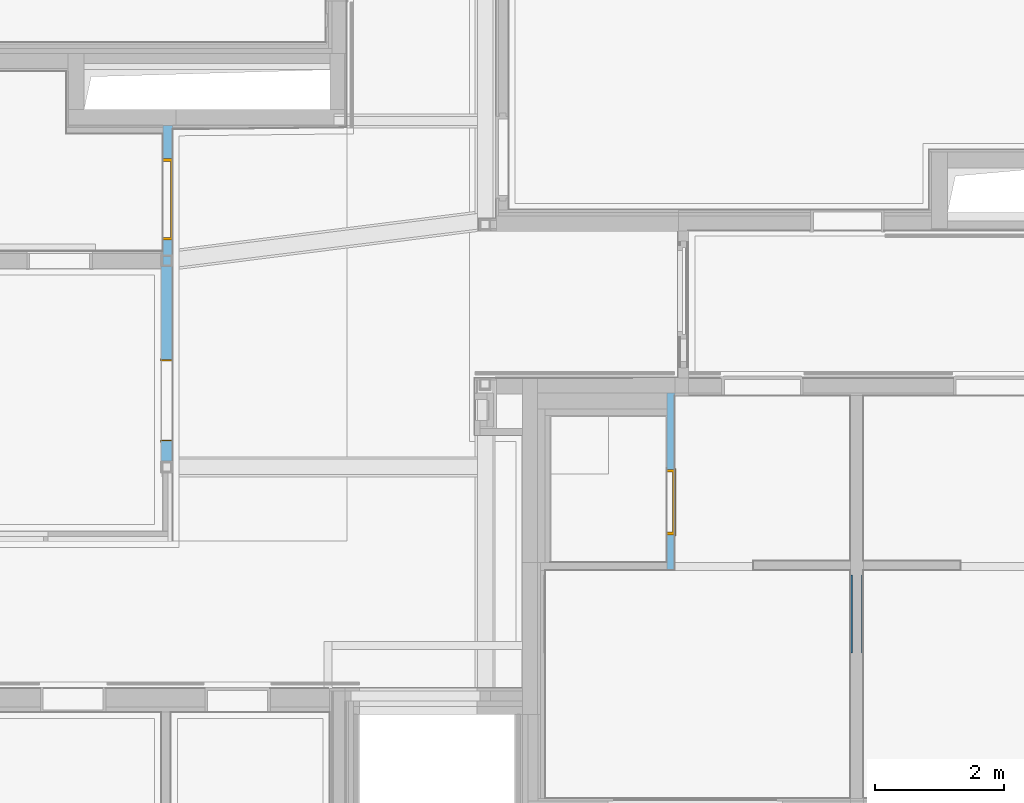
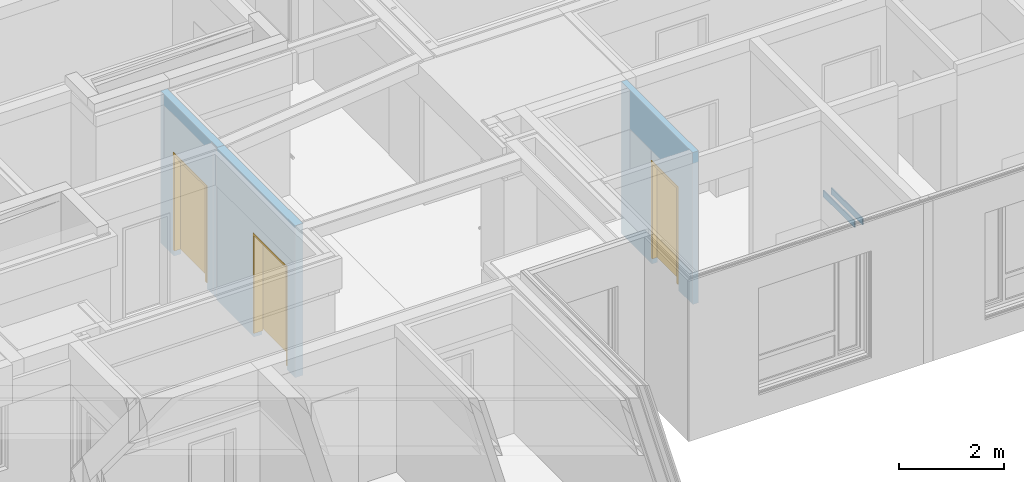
# One storey, part 113 of 222: 3 doors, 2 walls, 3 openings, plus 3 elements that do not belong to this part.
"""IFC4 building model written with IfcOpenShell, lengths in metres."""

from ifc_helpers import new_model, entity, si_unit, converted_unit, derived_unit, frame, frame_2d, origin, origin_with_axes, place, context, subcontext, project, spatial, polyline, rectangle, outline, extrude, clip, bounded_halfspace, faceted_brep, source, transform, mapped, material, type_object, element, fill, save


model = new_model("IFC4")

# Units and contexts
model_context = context("Model", 3, precision=1e-05, world=origin())
body_context = subcontext(model_context, "Body", "Model", "MODEL_VIEW")
ifc_project = project(units=[si_unit("LENGTHUNIT", "METRE"), si_unit("AREAUNIT", "SQUARE_METRE"), si_unit("VOLUMEUNIT", "CUBIC_METRE"), si_unit("MASSUNIT", "GRAM", prefix="KILO"), converted_unit("PLANEANGLEUNIT", "DEGREE", entity("IfcPlaneAngleMeasure", 0.0174532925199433), si_unit("PLANEANGLEUNIT", "RADIAN"), dimensions=[0, 0, 0, 0, 0, 0, 0]), derived_unit("THERMALTRANSMITTANCEUNIT", [(si_unit("POWERUNIT", "WATT"), 1), (si_unit("THERMODYNAMICTEMPERATUREUNIT", "KELVIN"), -1), (si_unit("LENGTHUNIT", "METRE"), -2)]), derived_unit("VOLUMETRICFLOWRATEUNIT", [(si_unit("LENGTHUNIT", "METRE"), 3), (converted_unit("TIMEUNIT", "hour", entity("IfcTimeMeasure", 3600.0), si_unit("TIMEUNIT", "SECOND"), dimensions=[0, 0, 1, 0, 0, 0, 0]), -1), (si_unit("LENGTHUNIT", "METRE"), -1)])], contexts=[model_context])

# Site, building, storey
site_placement = place(None, origin())
site = spatial("IfcSite", under=ifc_project, at=site_placement, Name="Psychiatrie Neubau Wunstorf", CompositionType="ELEMENT")
building_placement = place(site_placement, origin())
building = spatial("IfcBuilding", under=site, at=building_placement, Name="Neubau H2 Stationsgebäude", CompositionType="ELEMENT")
storey_placement = place(building_placement, frame((0.0, 0.0, 3.6)))
storey = spatial("IfcBuildingStorey", under=building, at=storey_placement, Name="H2 Ebene +1", CompositionType="ELEMENT", Elevation=3.6)

# Wall, opening, door
ifc_material_1 = material(Name="WI-LB")
wall_1_placement = place(storey_placement, frame((73.1875, 2.36050000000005, 0.0), z_axis=(0.0, 0.0, 1.0), x_axis=(0.0, 1.0, 0.0)))
wall_1 = element("IfcWall", 1, at=wall_1_placement, inside=storey, material=ifc_material_1, context=body_context, shape_type="SweptSolid", body=[
    extrude(rectangle(XDim=2.73999999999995, YDim=0.125, at=frame_2d((1.36999999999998, 0.0625), x_axis=(1.0, 0.0))), origin_with_axes(), (0.0, 0.0, 1.0), 3.55),
])
opening_1_placement = place(wall_1_placement, frame((1.55999999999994, 0.125, 0.0), z_axis=(0.0, -1.0, 0.0), x_axis=(0.0, 0.0, 1.0)))
opening_1 = element("IfcOpeningElement", 2, at=opening_1_placement, cuts=wall_1, Name="Türöffnung", ObjectType="Opening", context=body_context, shape_type="SweptSolid", body=[
    extrude(outline(polyline([(2.41, 1.01), (2.41, 0.0), (0.0, 0.0), (0.0, 1.01), (2.41, 1.01)])), origin_with_axes(), (0.0, 0.0, 1.0), 0.125),
])
ifc_material_2 = material(Name="TI-1F-UZ-D-N")
door_type_1 = type_object("IfcDoorType", Name="SMT", OperationType="SINGLE_SWING_RIGHT", ParameterTakesPrecedence=False, PredefinedType="DOOR")
shared_shape_1 = source(origin_with_axes(), body_context, "Body", "Brep", [
    faceted_brep([(-0.0399999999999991, 0.0124999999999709, 0.0), (0.0, 0.0124999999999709, 0.0), (0.0, 0.112499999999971, 0.0), (-0.0399999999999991, 0.112499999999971, 0.0), (-0.0399999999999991, 0.112499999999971, 3.55), (0.0, 0.112499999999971, 3.55), (0.0, 0.0124999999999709, 3.55), (-0.0399999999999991, 0.0124999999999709, 3.55)], [[[0, 1, 2, 3]], [[4, 5, 6, 7]], [[3, 4, 7, 0]], [[2, 5, 4, 3]], [[1, 6, 5, 2]], [[0, 7, 6, 1]]], orient=[[False], [False], [False], [False], [False], [False]]),
    faceted_brep([(1.01, 0.0124999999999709, 0.0), (1.05, 0.0124999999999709, 0.0), (1.05, 0.112499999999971, 0.0), (1.01, 0.112499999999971, 0.0), (1.01, 0.112499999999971, 3.55), (1.05, 0.112499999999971, 3.55), (1.05, 0.0124999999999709, 3.55), (1.01, 0.0124999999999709, 3.55)], [[[0, 1, 2, 3]], [[4, 5, 6, 7]], [[3, 4, 7, 0]], [[2, 5, 4, 3]], [[1, 6, 5, 2]], [[0, 7, 6, 1]]], orient=[[False], [False], [False], [False], [False], [False]]),
    faceted_brep([(0.0, 0.0124999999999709, 2.41), (1.01, 0.0124999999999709, 2.41), (1.01, 0.112499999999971, 2.41), (0.0, 0.112499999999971, 2.41), (0.0, 0.112499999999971, 2.45), (1.01, 0.112499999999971, 2.45), (1.01, 0.0124999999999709, 2.45), (0.0, 0.0124999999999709, 2.45)], [[[0, 1, 2, 3]], [[4, 5, 6, 7]], [[3, 4, 7, 0]], [[2, 5, 4, 3]], [[1, 6, 5, 2]], [[0, 7, 6, 1]]], orient=[[False], [False], [False], [False], [False], [False]]),
])
shared_shape_2 = source(origin_with_axes(), body_context, "Body", "Brep", [
    faceted_brep([(0.0, -0.0150000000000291, 2.41), (0.0400000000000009, -0.0150000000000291, 2.41), (0.0400000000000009, -0.0150000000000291, 0.15), (0.0, -0.0150000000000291, 0.15), (0.0, 0.139999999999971, 0.15), (0.0400000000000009, 0.139999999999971, 0.15), (0.0400000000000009, 0.139999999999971, 2.41), (0.0, 0.139999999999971, 2.41)], [[[0, 1, 2, 3]], [[4, 5, 6, 7]], [[3, 4, 7, 0]], [[2, 5, 4, 3]], [[1, 6, 5, 2]], [[0, 7, 6, 1]]], orient=[[False], [False], [False], [False], [False], [False]]),
    faceted_brep([(0.0, -0.0150000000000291, 2.425), (0.0, -0.0150000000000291, 0.15), (-0.0149999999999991, -0.0150000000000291, 0.15), (-0.0149999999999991, -0.0150000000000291, 2.425), (0.0, 0.0, 0.15), (0.0, 0.0, 2.425), (-0.0149999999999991, 0.0, 2.425), (-0.0149999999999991, 0.0, 0.15)], [[[0, 1, 2, 3]], [[4, 5, 6, 7]], [[1, 0, 5, 4]], [[2, 1, 4, 7]], [[3, 2, 7, 6]], [[0, 3, 6, 5]]], orient=[[False], [False], [False], [False], [False], [False]]),
    faceted_brep([(0.0, 0.124999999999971, 2.425), (0.0, 0.124999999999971, 0.15), (-0.0149999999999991, 0.124999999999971, 0.15), (-0.0149999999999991, 0.124999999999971, 2.425), (0.0, 0.139999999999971, 0.15), (0.0, 0.139999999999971, 2.425), (-0.0149999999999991, 0.139999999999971, 2.425), (-0.0149999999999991, 0.139999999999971, 0.15)], [[[0, 1, 2, 3]], [[4, 5, 6, 7]], [[1, 0, 5, 4]], [[2, 1, 4, 7]], [[3, 2, 7, 6]], [[0, 3, 6, 5]]], orient=[[False], [False], [False], [False], [False], [False]]),
    faceted_brep([(0.970000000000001, -0.0150000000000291, 2.41), (1.01, -0.0150000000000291, 2.41), (1.01, -0.0150000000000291, 0.15), (0.970000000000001, -0.0150000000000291, 0.15), (0.970000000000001, 0.139999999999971, 0.15), (1.01, 0.139999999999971, 0.15), (1.01, 0.139999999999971, 2.41), (0.970000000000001, 0.139999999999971, 2.41)], [[[0, 1, 2, 3]], [[4, 5, 6, 7]], [[3, 4, 7, 0]], [[2, 5, 4, 3]], [[1, 6, 5, 2]], [[0, 7, 6, 1]]], orient=[[False], [False], [False], [False], [False], [False]]),
    faceted_brep([(1.01, -0.0150000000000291, 2.425), (1.025, -0.0150000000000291, 2.425), (1.025, -0.0150000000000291, 0.15), (1.01, -0.0150000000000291, 0.15), (1.01, 0.0, 0.15), (1.025, 0.0, 0.15), (1.025, 0.0, 2.425), (1.01, 0.0, 2.425)], [[[0, 1, 2, 3]], [[4, 5, 6, 7]], [[3, 4, 7, 0]], [[2, 5, 4, 3]], [[1, 6, 5, 2]], [[0, 7, 6, 1]]], orient=[[False], [False], [False], [False], [False], [False]]),
    faceted_brep([(1.01, 0.124999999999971, 2.425), (1.025, 0.124999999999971, 2.425), (1.025, 0.124999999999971, 0.15), (1.01, 0.124999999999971, 0.15), (1.01, 0.139999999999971, 0.15), (1.025, 0.139999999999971, 0.15), (1.025, 0.139999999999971, 2.425), (1.01, 0.139999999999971, 2.425)], [[[0, 1, 2, 3]], [[4, 5, 6, 7]], [[3, 4, 7, 0]], [[2, 5, 4, 3]], [[1, 6, 5, 2]], [[0, 7, 6, 1]]], orient=[[False], [False], [False], [False], [False], [False]]),
    faceted_brep([(0.0400000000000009, -0.0150000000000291, 2.41), (0.970000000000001, -0.0150000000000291, 2.41), (0.970000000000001, -0.0150000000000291, 2.37), (0.0400000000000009, -0.0150000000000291, 2.37), (0.0400000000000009, 0.139999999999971, 2.37), (0.970000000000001, 0.139999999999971, 2.37), (0.970000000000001, 0.139999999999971, 2.41), (0.0400000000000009, 0.139999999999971, 2.41)], [[[0, 1, 2, 3]], [[4, 5, 6, 7]], [[3, 4, 7, 0]], [[2, 5, 4, 3]], [[1, 6, 5, 2]], [[0, 7, 6, 1]]], orient=[[False], [False], [False], [False], [False], [False]]),
    faceted_brep([(0.0, -0.0150000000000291, 2.425), (1.01, -0.0150000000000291, 2.425), (1.01, -0.0150000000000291, 2.41), (0.0, -0.0150000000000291, 2.41), (0.0, 0.0, 2.41), (1.01, 0.0, 2.41), (1.01, 0.0, 2.425), (0.0, 0.0, 2.425)], [[[0, 1, 2, 3]], [[4, 5, 6, 7]], [[3, 4, 7, 0]], [[2, 5, 4, 3]], [[1, 6, 5, 2]], [[0, 7, 6, 1]]], orient=[[False], [False], [False], [False], [False], [False]]),
    faceted_brep([(0.0, 0.124999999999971, 2.425), (1.01, 0.124999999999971, 2.425), (1.01, 0.124999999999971, 2.41), (0.0, 0.124999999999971, 2.41), (0.0, 0.139999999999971, 2.41), (1.01, 0.139999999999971, 2.41), (1.01, 0.139999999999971, 2.425), (0.0, 0.139999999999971, 2.425)], [[[0, 1, 2, 3]], [[4, 5, 6, 7]], [[3, 4, 7, 0]], [[2, 5, 4, 3]], [[1, 6, 5, 2]], [[0, 7, 6, 1]]], orient=[[False], [False], [False], [False], [False], [False]]),
    faceted_brep([(0.0250000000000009, 0.0909999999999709, 2.385), (0.985000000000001, 0.0909999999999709, 2.385), (0.985000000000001, 0.0909999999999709, 0.15), (0.0250000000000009, 0.0909999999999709, 0.15), (0.0250000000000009, 0.140999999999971, 0.15), (0.985000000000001, 0.140999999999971, 0.15), (0.985000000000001, 0.140999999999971, 2.385), (0.0250000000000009, 0.140999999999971, 2.385)], [[[0, 1, 2, 3]], [[4, 5, 6, 7]], [[3, 4, 7, 0]], [[2, 5, 4, 3]], [[1, 6, 5, 2]], [[0, 7, 6, 1]]], orient=[[False], [False], [False], [False], [False], [False]]),
])
door_1_placement = place(opening_1_placement, frame((0.0, 0.0, 0.0), z_axis=(1.0, 0.0, 0.0), x_axis=(0.0, 1.0, 0.0)))
door_1 = element("IfcDoor", 3, at=door_1_placement, inside=storey, type_object=door_type_1, material=ifc_material_2, Name="SMT", OverallHeight=2.41, OverallWidth=1.01, context=body_context, shape_type="MappedRepresentation", body=[
    mapped(shared_shape_1, transform((0.0, 0.0, 0.0), x_axis=(1.0, 0.0, 0.0), y_axis=(0.0, 1.0, 0.0), z_axis=(0.0, 0.0, 1.0), scale=1.0)),
    mapped(shared_shape_2, transform((0.0, 0.0, 0.0), x_axis=(1.0, 0.0, 0.0), y_axis=(0.0, 1.0, 0.0), z_axis=(0.0, 0.0, 1.0), scale=1.0)),
])
fill(opening_1, door_1)

# Walls
for number, where, name in (
    (4, (75.9, 1.08720005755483, 1.575), "WV 1.1"),
    (5, (76.075, 1.08720000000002, 1.575), "WV 1.1"),
):
    element("IfcWall", number, at=place(storey_placement, frame(where)), inside=storey, Name=name, context=body_context, shape_type="Brep", body=[
        faceted_brep([(0.025, 1.2, 0.0), (0.0, 1.2, 0.0), (0.0, 0.0, 0.0), (0.025, 0.0, 0.0), (0.0, 1.2, 0.15), (0.025, 1.2, 0.15), (0.025, 0.0, 0.15), (0.0, 0.0, 0.15)], [[[0, 1, 2, 3]], [[4, 5, 6, 7]], [[1, 0, 5, 4]], [[2, 1, 4, 7]], [[3, 2, 7, 6]], [[0, 3, 6, 5]]], orient=[[False], [False], [False], [False], [False], [False]]),
    ])

# Wall, opening, door
ifc_material_3 = material(Name="WI-LB")
wall_2_placement = place(storey_placement, frame((65.4249963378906, 4.0499969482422, 0.0), z_axis=(0.0, 0.0, 1.0), x_axis=(0.0, 1.0, 0.0)))
wall_2 = element("IfcWall", 6, at=wall_2_placement, inside=storey, material=ifc_material_3, context=body_context, shape_type="SweptSolid", body=[
    extrude(rectangle(XDim=3.0065026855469, YDim=0.175, at=frame_2d((1.50325134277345, 0.0875), x_axis=(1.0, 0.0))), origin_with_axes(), (0.0, 0.0, 1.0), 3.55),
])
opening_2_placement = place(wall_2_placement, frame((0.307502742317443, 0.0, 0.0), z_axis=(0.0, 1.0, 0.0), x_axis=(0.0, 0.0, 1.0)))
opening_2 = element("IfcOpeningElement", 7, at=opening_2_placement, cuts=wall_2, Name="Türöffnung", ObjectType="Opening", context=body_context, shape_type="SweptSolid", body=[
    extrude(outline(polyline([(2.41, 1.26), (2.41, 0.0), (0.0, 0.0), (0.0, 1.26), (2.41, 1.26)])), origin_with_axes(), (0.0, 0.0, 1.0), 0.175),
])
ifc_material_4 = material(Name="TI-1F-UZ-ZK")
door_type_2 = type_object("IfcDoorType", Name="SMT", OperationType="SLIDING_TO_LEFT", ParameterTakesPrecedence=False, PredefinedType="DOOR")
shared_shape_3 = source(origin_with_axes(), body_context, "Body", "Brep", [
    faceted_brep([(-0.0500000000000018, -0.149999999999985, 2.41), (2.72, -0.149999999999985, 2.41), (2.72, 0.0, 2.41), (-0.0500000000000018, 0.0, 2.41), (-0.0500000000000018, 0.0, 2.66), (2.72, 0.0, 2.66), (2.72, -0.149999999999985, 2.66), (-0.0500000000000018, -0.149999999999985, 2.66)], [[[0, 1, 2, 3]], [[4, 5, 6, 7]], [[3, 4, 7, 0]], [[2, 5, 4, 3]], [[1, 6, 5, 2]], [[0, 7, 6, 1]]], orient=[[False], [False], [False], [False], [False], [False]]),
])
shared_shape_4 = source(origin_with_axes(), body_context, "Body", "Brep", [
    faceted_brep([(1.3375, 0.0375000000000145, 0.0), (1.3375, 0.137500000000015, 0.0), (1.2875, 0.137500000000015, 0.0), (1.2875, 0.0375000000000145, 0.0), (1.3375, 0.137500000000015, 3.55), (1.3375, 0.0375000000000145, 3.55), (1.2875, 0.0375000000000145, 3.55), (1.2875, 0.137500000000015, 3.55)], [[[0, 1, 2, 3]], [[4, 5, 6, 7]], [[1, 0, 5, 4]], [[2, 1, 4, 7]], [[3, 2, 7, 6]], [[0, 3, 6, 5]]], orient=[[False], [False], [False], [False], [False], [False]]),
    faceted_brep([(2.6675, 0.0375000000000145, 0.0), (2.6675, 0.137500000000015, 0.0), (2.6175, 0.137500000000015, 0.0), (2.6175, 0.0375000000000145, 0.0), (2.6675, 0.137500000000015, 3.55), (2.6675, 0.0375000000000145, 3.55), (2.6175, 0.0375000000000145, 3.55), (2.6175, 0.137500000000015, 3.55)], [[[0, 1, 2, 3]], [[4, 5, 6, 7]], [[1, 0, 5, 4]], [[2, 1, 4, 7]], [[3, 2, 7, 6]], [[0, 3, 6, 5]]], orient=[[False], [False], [False], [False], [False], [False]]),
    faceted_brep([(-0.0275000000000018, 0.0375000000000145, 0.0), (-0.0275000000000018, 0.137500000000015, 0.0), (-0.0775000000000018, 0.137500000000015, 0.0), (-0.0775000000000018, 0.0375000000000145, 0.0), (-0.0275000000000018, 0.137500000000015, 3.55), (-0.0275000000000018, 0.0375000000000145, 3.55), (-0.0775000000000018, 0.0375000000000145, 3.55), (-0.0775000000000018, 0.137500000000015, 3.55)], [[[0, 1, 2, 3]], [[4, 5, 6, 7]], [[1, 0, 5, 4]], [[2, 1, 4, 7]], [[3, 2, 7, 6]], [[0, 3, 6, 5]]], orient=[[False], [False], [False], [False], [False], [False]]),
    faceted_brep([(2.6175, 0.0375000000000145, 2.4375), (2.6175, 0.137500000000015, 2.4375), (-0.0275000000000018, 0.137500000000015, 2.4375), (-0.0275000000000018, 0.0375000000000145, 2.4375), (2.6175, 0.137500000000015, 2.4875), (2.6175, 0.0375000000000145, 2.4875), (-0.0275000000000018, 0.0375000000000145, 2.4875), (-0.0275000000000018, 0.137500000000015, 2.4875)], [[[0, 1, 2, 3]], [[4, 5, 6, 7]], [[1, 0, 5, 4]], [[2, 1, 4, 7]], [[3, 2, 7, 6]], [[0, 3, 6, 5]]], orient=[[False], [False], [False], [False], [False], [False]]),
])
shared_shape_5 = source(origin_with_axes(), body_context, "Body", "Brep", [
    faceted_brep([(0.0, -0.00999999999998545, 2.41), (0.0199999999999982, -0.00999999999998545, 2.41), (0.0199999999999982, -0.00999999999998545, 0.1), (0.0, -0.00999999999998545, 0.1), (0.0, 0.185000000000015, 0.1), (0.0199999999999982, 0.185000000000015, 0.1), (0.0199999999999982, 0.185000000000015, 2.41), (0.0, 0.185000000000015, 2.41)], [[[0, 1, 2, 3]], [[4, 5, 6, 7]], [[3, 4, 7, 0]], [[2, 5, 4, 3]], [[1, 6, 5, 2]], [[0, 7, 6, 1]]], orient=[[False], [False], [False], [False], [False], [False]]),
    faceted_brep([(0.0, -0.00999999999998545, 2.43), (0.0, -0.00999999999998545, 0.1), (-0.0200000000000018, -0.00999999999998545, 0.1), (-0.0200000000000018, -0.00999999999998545, 2.43), (0.0, 0.0, 0.1), (0.0, 0.0, 2.43), (-0.0200000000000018, 0.0, 2.43), (-0.0200000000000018, 0.0, 0.1)], [[[0, 1, 2, 3]], [[4, 5, 6, 7]], [[1, 0, 5, 4]], [[2, 1, 4, 7]], [[3, 2, 7, 6]], [[0, 3, 6, 5]]], orient=[[False], [False], [False], [False], [False], [False]]),
    faceted_brep([(0.0, 0.175000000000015, 2.43), (0.0, 0.175000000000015, 0.1), (-0.0200000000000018, 0.175000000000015, 0.1), (-0.0200000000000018, 0.175000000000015, 2.43), (0.0, 0.185000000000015, 0.1), (0.0, 0.185000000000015, 2.43), (-0.0200000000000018, 0.185000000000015, 2.43), (-0.0200000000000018, 0.185000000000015, 0.1)], [[[0, 1, 2, 3]], [[4, 5, 6, 7]], [[1, 0, 5, 4]], [[2, 1, 4, 7]], [[3, 2, 7, 6]], [[0, 3, 6, 5]]], orient=[[False], [False], [False], [False], [False], [False]]),
    faceted_brep([(1.24, -0.00999999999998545, 2.41), (1.26, -0.00999999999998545, 2.41), (1.26, -0.00999999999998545, 0.1), (1.24, -0.00999999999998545, 0.1), (1.24, 0.185000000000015, 0.1), (1.26, 0.185000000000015, 0.1), (1.26, 0.185000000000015, 2.41), (1.24, 0.185000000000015, 2.41)], [[[0, 1, 2, 3]], [[4, 5, 6, 7]], [[3, 4, 7, 0]], [[2, 5, 4, 3]], [[1, 6, 5, 2]], [[0, 7, 6, 1]]], orient=[[False], [False], [False], [False], [False], [False]]),
    faceted_brep([(1.26, -0.00999999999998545, 2.43), (1.28, -0.00999999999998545, 2.43), (1.28, -0.00999999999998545, 0.1), (1.26, -0.00999999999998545, 0.1), (1.26, 0.0, 0.1), (1.28, 0.0, 0.1), (1.28, 0.0, 2.43), (1.26, 0.0, 2.43)], [[[0, 1, 2, 3]], [[4, 5, 6, 7]], [[3, 4, 7, 0]], [[2, 5, 4, 3]], [[1, 6, 5, 2]], [[0, 7, 6, 1]]], orient=[[False], [False], [False], [False], [False], [False]]),
    faceted_brep([(1.26, 0.175000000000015, 2.43), (1.28, 0.175000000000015, 2.43), (1.28, 0.175000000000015, 0.1), (1.26, 0.175000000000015, 0.1), (1.26, 0.185000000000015, 0.1), (1.28, 0.185000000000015, 0.1), (1.28, 0.185000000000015, 2.43), (1.26, 0.185000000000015, 2.43)], [[[0, 1, 2, 3]], [[4, 5, 6, 7]], [[3, 4, 7, 0]], [[2, 5, 4, 3]], [[1, 6, 5, 2]], [[0, 7, 6, 1]]], orient=[[False], [False], [False], [False], [False], [False]]),
    faceted_brep([(0.0199999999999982, -0.00999999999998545, 2.41), (1.24, -0.00999999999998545, 2.41), (1.24, -0.00999999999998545, 2.385), (0.0199999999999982, -0.00999999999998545, 2.385), (0.0199999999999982, 0.185000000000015, 2.385), (1.24, 0.185000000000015, 2.385), (1.24, 0.185000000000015, 2.41), (0.0199999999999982, 0.185000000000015, 2.41)], [[[0, 1, 2, 3]], [[4, 5, 6, 7]], [[3, 4, 7, 0]], [[2, 5, 4, 3]], [[1, 6, 5, 2]], [[0, 7, 6, 1]]], orient=[[False], [False], [False], [False], [False], [False]]),
    faceted_brep([(0.0, -0.00999999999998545, 2.43), (1.26, -0.00999999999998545, 2.43), (1.26, -0.00999999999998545, 2.41), (0.0, -0.00999999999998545, 2.41), (0.0, 0.0, 2.41), (1.26, 0.0, 2.41), (1.26, 0.0, 2.43), (0.0, 0.0, 2.43)], [[[0, 1, 2, 3]], [[4, 5, 6, 7]], [[3, 4, 7, 0]], [[2, 5, 4, 3]], [[1, 6, 5, 2]], [[0, 7, 6, 1]]], orient=[[False], [False], [False], [False], [False], [False]]),
    faceted_brep([(0.0, 0.175000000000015, 2.43), (1.26, 0.175000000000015, 2.43), (1.26, 0.175000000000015, 2.41), (0.0, 0.175000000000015, 2.41), (0.0, 0.185000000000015, 2.41), (1.26, 0.185000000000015, 2.41), (1.26, 0.185000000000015, 2.43), (0.0, 0.185000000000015, 2.43)], [[[0, 1, 2, 3]], [[4, 5, 6, 7]], [[3, 4, 7, 0]], [[2, 5, 4, 3]], [[1, 6, 5, 2]], [[0, 7, 6, 1]]], orient=[[False], [False], [False], [False], [False], [False]]),
    faceted_brep([(0.111999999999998, -0.0899999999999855, 2.465), (1.392, -0.0899999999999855, 2.465), (1.392, -0.0899999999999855, 0.1), (0.111999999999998, -0.0899999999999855, 0.1), (0.111999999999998, -0.0399999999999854, 0.1), (1.392, -0.0399999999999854, 0.1), (1.392, -0.0399999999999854, 2.465), (0.111999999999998, -0.0399999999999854, 2.465)], [[[0, 1, 2, 3]], [[4, 5, 6, 7]], [[3, 4, 7, 0]], [[2, 5, 4, 3]], [[1, 6, 5, 2]], [[0, 7, 6, 1]]], orient=[[False], [False], [False], [False], [False], [False]]),
])
door_2_placement = place(opening_2_placement, frame((0.0, 0.0, 0.0), z_axis=(1.0, 0.0, 0.0), x_axis=(0.0, 1.0, 0.0)))
door_2 = element("IfcDoor", 8, at=door_2_placement, inside=storey, type_object=door_type_2, material=ifc_material_4, Name="SMT", OverallHeight=2.41, OverallWidth=1.26, context=body_context, shape_type="MappedRepresentation", body=[
    mapped(shared_shape_3, transform((0.0, 0.0, 0.0), x_axis=(1.0, 0.0, 0.0), y_axis=(0.0, 1.0, 0.0), z_axis=(0.0, 0.0, 1.0), scale=1.0)),
    mapped(shared_shape_4, transform((0.0, 0.0, 0.0), x_axis=(1.0, 0.0, 0.0), y_axis=(0.0, 1.0, 0.0), z_axis=(0.0, 0.0, 1.0), scale=1.0)),
    mapped(shared_shape_5, transform((0.0, 0.0, 0.0), x_axis=(1.0, 0.0, 0.0), y_axis=(0.0, 1.0, 0.0), z_axis=(0.0, 0.0, 1.0), scale=1.0)),
])
fill(opening_2, door_2)

ifc_material_5 = material(Name="WI-LB")
wall_3_placement = place(storey_placement, frame((65.4249963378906, 7.0564996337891, 0.0), z_axis=(0.0, 0.0, 1.0), x_axis=(0.0, 1.0, 0.0)))
wall_3 = element("IfcWall", 9, at=wall_3_placement, inside=storey, material=ifc_material_5, context=body_context, shape_type="Clipping", body=[
    clip(extrude(rectangle(XDim=2.17850005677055, YDim=0.15, at=frame_2d((1.08925002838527, 0.075), x_axis=(1.0, 0.0))), origin_with_axes(), (0.0, 0.0, 1.0), 3.55), bounded_halfspace(frame((0.09, 0.0812499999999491, 3.317), z_axis=(0.0, 0.0, 1.0), x_axis=(0.0, 1.0, 0.0)), True, origin_with_axes(), polyline([(0.18, 0.0), (0.18, 0.149999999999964), (0.155, 0.149999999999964), (0.155, 0.0249999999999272), (0.0250000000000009, 0.0249999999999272), (0.0250000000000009, 0.149999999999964), (0.0, 0.149999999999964), (0.0, 0.0), (0.18, 0.0)]))),
])
opening_3_placement = place(wall_3_placement, frame((1.66519606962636, 0.15, 0.0), z_axis=(0.0, -1.0, 0.0), x_axis=(0.0, 0.0, 1.0)))
opening_3 = element("IfcOpeningElement", 10, at=opening_3_placement, cuts=wall_3, Name="Türöffnung", ObjectType="Opening", context=body_context, shape_type="SweptSolid", body=[
    extrude(outline(polyline([(2.41, 1.26), (2.41, 0.0), (0.0, 0.0), (0.0, 1.26), (2.41, 1.26)])), origin_with_axes(), (0.0, 0.0, 1.0), 0.15),
])
ifc_material_6 = material(Name="TI-1F-UZ-ZK")
door_type_3 = type_object("IfcDoorType", Name="SMT", OperationType="SINGLE_SWING_RIGHT", ParameterTakesPrecedence=False, PredefinedType="DOOR")
shared_shape_6 = source(origin_with_axes(), body_context, "Body", "Brep", [
    faceted_brep([(1.31, 0.0249999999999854, 0.0), (1.31, 0.124999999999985, 0.0), (1.26, 0.124999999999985, 0.0), (1.26, 0.0249999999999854, 0.0), (1.31, 0.124999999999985, 3.55), (1.31, 0.0249999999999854, 3.55), (1.26, 0.0249999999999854, 3.55), (1.26, 0.124999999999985, 3.55)], [[[0, 1, 2, 3]], [[4, 5, 6, 7]], [[1, 0, 5, 4]], [[2, 1, 4, 7]], [[3, 2, 7, 6]], [[0, 3, 6, 5]]], orient=[[False], [False], [False], [False], [False], [False]]),
    faceted_brep([(0.0, 0.0249999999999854, 0.0), (0.0, 0.124999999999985, 0.0), (-0.0499999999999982, 0.124999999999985, 0.0), (-0.0499999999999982, 0.0249999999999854, 0.0), (0.0, 0.124999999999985, 3.55), (0.0, 0.0249999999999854, 3.55), (-0.0499999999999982, 0.0249999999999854, 3.55), (-0.0499999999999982, 0.124999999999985, 3.55)], [[[0, 1, 2, 3]], [[4, 5, 6, 7]], [[1, 0, 5, 4]], [[2, 1, 4, 7]], [[3, 2, 7, 6]], [[0, 3, 6, 5]]], orient=[[False], [False], [False], [False], [False], [False]]),
    faceted_brep([(1.26, 0.0249999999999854, 2.41), (1.26, 0.124999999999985, 2.41), (0.0, 0.124999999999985, 2.41), (0.0, 0.0249999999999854, 2.41), (1.26, 0.124999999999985, 2.46), (1.26, 0.0249999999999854, 2.46), (0.0, 0.0249999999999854, 2.46), (0.0, 0.124999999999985, 2.46)], [[[0, 1, 2, 3]], [[4, 5, 6, 7]], [[1, 0, 5, 4]], [[2, 1, 4, 7]], [[3, 2, 7, 6]], [[0, 3, 6, 5]]], orient=[[False], [False], [False], [False], [False], [False]]),
])
shared_shape_7 = source(origin_with_axes(), body_context, "Body", "Brep", [
    faceted_brep([(1.26, -0.0150000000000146, 2.41), (1.26, -0.0150000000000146, 0.15), (1.22, -0.0150000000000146, 0.15), (1.22, -0.0150000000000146, 2.41), (1.26, 0.164999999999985, 0.15), (1.26, 0.164999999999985, 2.41), (1.22, 0.164999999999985, 2.41), (1.22, 0.164999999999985, 0.15)], [[[0, 1, 2, 3]], [[4, 5, 6, 7]], [[1, 0, 5, 4]], [[2, 1, 4, 7]], [[3, 2, 7, 6]], [[0, 3, 6, 5]]], orient=[[False], [False], [False], [False], [False], [False]]),
    faceted_brep([(1.26, -0.0150000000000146, 2.425), (1.275, -0.0150000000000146, 2.425), (1.275, -0.0150000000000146, 0.15), (1.26, -0.0150000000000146, 0.15), (1.26, 0.0, 0.15), (1.275, 0.0, 0.15), (1.275, 0.0, 2.425), (1.26, 0.0, 2.425)], [[[0, 1, 2, 3]], [[4, 5, 6, 7]], [[3, 4, 7, 0]], [[2, 5, 4, 3]], [[1, 6, 5, 2]], [[0, 7, 6, 1]]], orient=[[False], [False], [False], [False], [False], [False]]),
    faceted_brep([(1.26, 0.149999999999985, 2.425), (1.275, 0.149999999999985, 2.425), (1.275, 0.149999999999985, 0.15), (1.26, 0.149999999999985, 0.15), (1.26, 0.164999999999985, 0.15), (1.275, 0.164999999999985, 0.15), (1.275, 0.164999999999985, 2.425), (1.26, 0.164999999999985, 2.425)], [[[0, 1, 2, 3]], [[4, 5, 6, 7]], [[3, 4, 7, 0]], [[2, 5, 4, 3]], [[1, 6, 5, 2]], [[0, 7, 6, 1]]], orient=[[False], [False], [False], [False], [False], [False]]),
    faceted_brep([(0.0400000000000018, -0.0150000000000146, 2.41), (0.0400000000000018, -0.0150000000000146, 0.15), (0.0, -0.0150000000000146, 0.15), (0.0, -0.0150000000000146, 2.41), (0.0400000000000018, 0.164999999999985, 0.15), (0.0400000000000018, 0.164999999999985, 2.41), (0.0, 0.164999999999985, 2.41), (0.0, 0.164999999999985, 0.15)], [[[0, 1, 2, 3]], [[4, 5, 6, 7]], [[1, 0, 5, 4]], [[2, 1, 4, 7]], [[3, 2, 7, 6]], [[0, 3, 6, 5]]], orient=[[False], [False], [False], [False], [False], [False]]),
    faceted_brep([(0.0, -0.0150000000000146, 2.425), (0.0, -0.0150000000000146, 0.15), (-0.0149999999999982, -0.0150000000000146, 0.15), (-0.0149999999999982, -0.0150000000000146, 2.425), (0.0, 0.0, 0.15), (0.0, 0.0, 2.425), (-0.0149999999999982, 0.0, 2.425), (-0.0149999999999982, 0.0, 0.15)], [[[0, 1, 2, 3]], [[4, 5, 6, 7]], [[1, 0, 5, 4]], [[2, 1, 4, 7]], [[3, 2, 7, 6]], [[0, 3, 6, 5]]], orient=[[False], [False], [False], [False], [False], [False]]),
    faceted_brep([(0.0, 0.149999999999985, 2.425), (0.0, 0.149999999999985, 0.15), (-0.0149999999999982, 0.149999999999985, 0.15), (-0.0149999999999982, 0.149999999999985, 2.425), (0.0, 0.164999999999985, 0.15), (0.0, 0.164999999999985, 2.425), (-0.0149999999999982, 0.164999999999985, 2.425), (-0.0149999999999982, 0.164999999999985, 0.15)], [[[0, 1, 2, 3]], [[4, 5, 6, 7]], [[1, 0, 5, 4]], [[2, 1, 4, 7]], [[3, 2, 7, 6]], [[0, 3, 6, 5]]], orient=[[False], [False], [False], [False], [False], [False]]),
    faceted_brep([(1.22, -0.0150000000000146, 2.41), (1.22, -0.0150000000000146, 2.37), (0.0400000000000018, -0.0150000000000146, 2.37), (0.0400000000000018, -0.0150000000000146, 2.41), (1.22, 0.164999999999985, 2.37), (1.22, 0.164999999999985, 2.41), (0.0400000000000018, 0.164999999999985, 2.41), (0.0400000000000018, 0.164999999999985, 2.37)], [[[0, 1, 2, 3]], [[4, 5, 6, 7]], [[1, 0, 5, 4]], [[2, 1, 4, 7]], [[3, 2, 7, 6]], [[0, 3, 6, 5]]], orient=[[False], [False], [False], [False], [False], [False]]),
    faceted_brep([(1.26, -0.0150000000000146, 2.425), (1.26, -0.0150000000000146, 2.41), (0.0, -0.0150000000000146, 2.41), (0.0, -0.0150000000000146, 2.425), (1.26, 0.0, 2.41), (1.26, 0.0, 2.425), (0.0, 0.0, 2.425), (0.0, 0.0, 2.41)], [[[0, 1, 2, 3]], [[4, 5, 6, 7]], [[1, 0, 5, 4]], [[2, 1, 4, 7]], [[3, 2, 7, 6]], [[0, 3, 6, 5]]], orient=[[False], [False], [False], [False], [False], [False]]),
    faceted_brep([(1.26, 0.149999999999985, 2.425), (1.26, 0.149999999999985, 2.41), (0.0, 0.149999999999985, 2.41), (0.0, 0.149999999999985, 2.425), (1.26, 0.164999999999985, 2.41), (1.26, 0.164999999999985, 2.425), (0.0, 0.164999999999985, 2.425), (0.0, 0.164999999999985, 2.41)], [[[0, 1, 2, 3]], [[4, 5, 6, 7]], [[1, 0, 5, 4]], [[2, 1, 4, 7]], [[3, 2, 7, 6]], [[0, 3, 6, 5]]], orient=[[False], [False], [False], [False], [False], [False]]),
    faceted_brep([(1.235, 0.115999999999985, 2.385), (1.235, 0.115999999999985, 0.15), (0.0250000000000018, 0.115999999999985, 0.15), (0.0250000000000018, 0.115999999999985, 2.385), (1.235, 0.165999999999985, 0.15), (1.235, 0.165999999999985, 2.385), (0.0250000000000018, 0.165999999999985, 2.385), (0.0250000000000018, 0.165999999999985, 0.15)], [[[0, 1, 2, 3]], [[4, 5, 6, 7]], [[1, 0, 5, 4]], [[2, 1, 4, 7]], [[3, 2, 7, 6]], [[0, 3, 6, 5]]], orient=[[False], [False], [False], [False], [False], [False]]),
])
door_3_placement = place(opening_3_placement, frame((0.0, 0.0, 0.0), z_axis=(1.0, 0.0, 0.0), x_axis=(0.0, 1.0, 0.0)))
door_3 = element("IfcDoor", 11, at=door_3_placement, inside=storey, type_object=door_type_3, material=ifc_material_6, Name="SMT", OverallHeight=2.41, OverallWidth=1.26, context=body_context, shape_type="MappedRepresentation", body=[
    mapped(shared_shape_6, transform((0.0, 0.0, 0.0), x_axis=(1.0, 0.0, 0.0), y_axis=(0.0, 1.0, 0.0), z_axis=(0.0, 0.0, 1.0), scale=1.0)),
    mapped(shared_shape_7, transform((0.0, 0.0, 0.0), x_axis=(1.0, 0.0, 0.0), y_axis=(0.0, 1.0, 0.0), z_axis=(0.0, 0.0, 1.0), scale=1.0)),
])
fill(opening_3, door_3)

save(model, "model.ifc")
